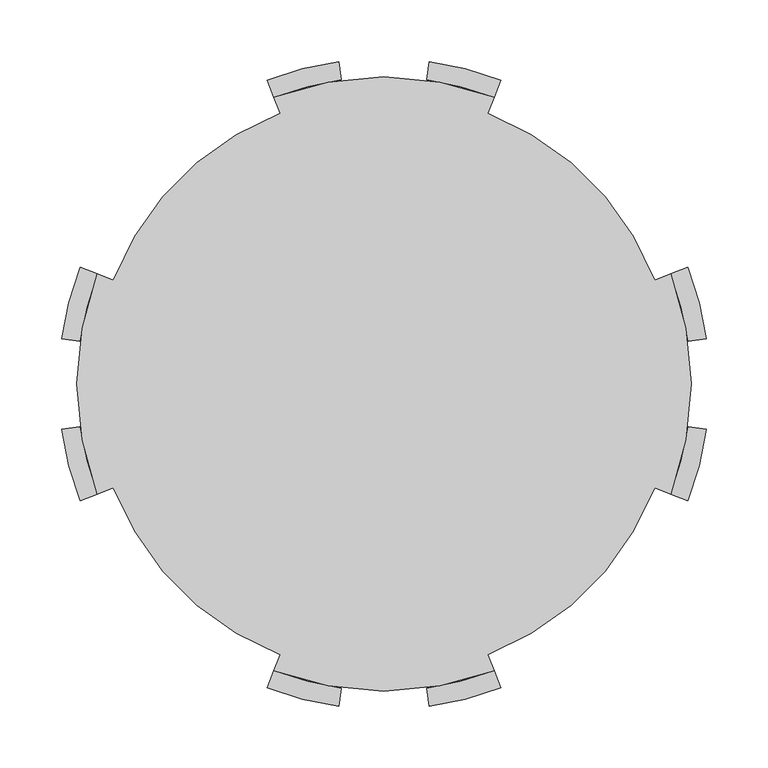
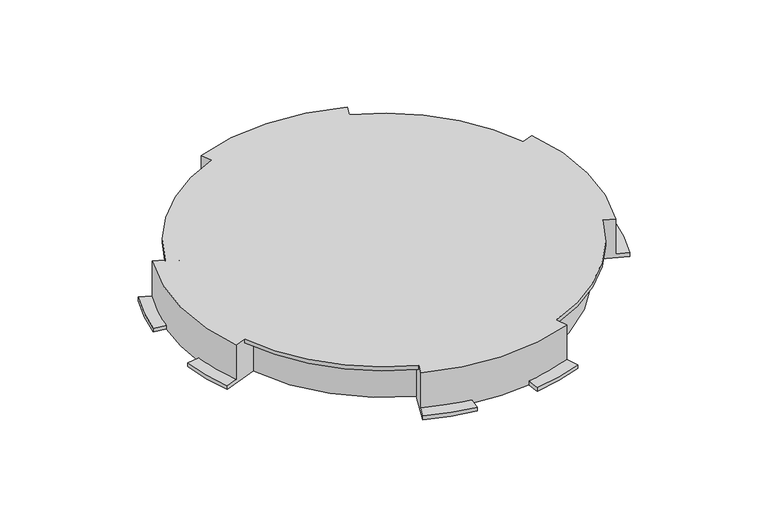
"""IFC4 building model written with IfcOpenShell, lengths in millimetres: proxy geometry, RSK C3 Base : RSK C3 Base."""

from ifc_helpers import new_model, si_unit, frame, origin, origin_with_axes, place, context, project, spatial, circle_curve, source, transform, mapped, element, save
from ifc_brep_helpers import plane_surface, cylinder_surface, advanced_brep


def generic_models_06af03c7(model_context):
    return source(origin(), model_context, "Body", "AdvancedBrep", [
        advanced_brep(
        [(-232.4615262, 89.2336194, 50.0), (-232.4615262, -89.2336194, 50.0), (-219.3914002, -84.2164681, 50.0), (-84.2164681, -219.3914002, 50.0), (-89.2336194, -232.4615262, 50.0), (89.2336194, -232.4615262, 50.0), (84.2164681, -219.3914002, 50.0), (219.3914002, -84.2164681, 50.0), (232.4615262, -89.2336194, 50.0), (232.4615262, 89.2336194, 50.0), (219.3914002, 84.2164681, 50.0), (84.2164681, 219.3914002, 50.0), (89.2336194, 232.4615262, 50.0), (-89.2336194, 232.4615262, 50.0), (-84.2164681, 219.3914002, 50.0), (-219.3914002, 84.2164681, 50.0), (-205.3876938, 78.8409489, 0.0), (-78.8409489, 205.3876938, 0.0), (-94.6091387, 246.4652326, 0.0), (-36.7416987, 261.4307701, 0.0), (-34.6541021, 246.5767491, 0.0), (34.6541021, 246.5767491, 0.0), (36.7416987, 261.4307701, 0.0), (94.6091387, 246.4652326, 0.0), (78.8409489, 205.3876938, 0.0), (205.3876938, 78.8409489, 0.0), (246.4652326, 94.6091387, 0.0), (261.4307701, 36.7416987, 0.0), (246.5767491, 34.6541021, 0.0), (246.5767491, -34.6541021, 0.0), (261.4307701, -36.7416987, 0.0), (246.4652326, -94.6091387, 0.0), (205.3876938, -78.8409489, 0.0), (78.8409489, -205.3876938, 0.0), (94.6091387, -246.4652326, 0.0), (36.7416987, -261.4307701, 0.0), (34.6541021, -246.5767491, 0.0), (-34.6541021, -246.5767491, 0.0), (-36.7416987, -261.4307701, 0.0), (-94.6091387, -246.4652326, 0.0), (-78.8409489, -205.3876938, 0.0), (-205.3876938, -78.8409489, 0.0), (-246.4652326, -94.6091387, 0.0), (-261.4307701, -36.7416987, 0.0), (-246.5767491, -34.6541021, 0.0), (-246.5767491, 34.6541021, 0.0), (-261.4307701, 36.7416987, 0.0), (-246.4652326, 94.6091387, 0.0), (-246.4652326, 94.6091387, 5.0), (-232.4615262, 89.2336194, 5.0), (-219.3914002, 84.2164681, 45.0), (-205.3876938, 78.8409489, 45.0), (-246.5767491, 34.6541021, 5.0), (-246.5767491, -34.6541021, 5.0), (-232.4615262, -89.2336194, 5.0), (-246.4652326, -94.6091387, 5.0), (-205.3876938, -78.8409489, 45.0), (-219.3914002, -84.2164681, 45.0), (-78.8409489, -205.3876938, 45.0), (-84.2164681, -219.3914002, 45.0), (-94.6091387, -246.4652326, 5.0), (-89.2336194, -232.4615262, 5.0), (-34.6541021, -246.5767491, 5.0), (34.6541021, -246.5767491, 5.0), (89.2336194, -232.4615262, 5.0), (94.6091387, -246.4652326, 5.0), (78.8409489, -205.3876938, 45.0), (84.2164681, -219.3914002, 45.0), (205.3876938, -78.8409489, 45.0), (219.3914002, -84.2164681, 45.0), (246.4652326, -94.6091387, 5.0), (232.4615262, -89.2336194, 5.0), (246.5767491, -34.6541021, 5.0), (246.5767491, 34.6541021, 5.0), (232.4615262, 89.2336194, 5.0), (246.4652326, 94.6091387, 5.0), (205.3876938, 78.8409489, 45.0), (219.3914002, 84.2164681, 45.0), (78.8409489, 205.3876938, 45.0), (94.6091387, 246.4652326, 5.0), (89.2336194, 232.4615262, 5.0), (84.2164681, 219.3914002, 45.0), (34.6541021, 246.5767491, 5.0), (-34.6541021, 246.5767491, 5.0), (-89.2336194, 232.4615262, 5.0), (-94.6091387, 246.4652326, 5.0), (-78.8409489, 205.3876938, 45.0), (-84.2164681, 219.3914002, 45.0), (-36.7416987, -261.4307701, 5.0), (36.7416987, -261.4307701, 5.0), (261.4307701, -36.7416987, 5.0), (261.4307701, 36.7416987, 5.0), (36.7416987, 261.4307701, 5.0), (-36.7416987, 261.4307701, 5.0), (-261.4307701, 36.7416987, 5.0), (-261.4307701, -36.7416987, 5.0)],
        [
            (0, 1, circle_curve(frame((0.0, 0.0, 50.0), z_axis=(0.0, 0.0, 1.0), x_axis=(1.0, 0.0, 0.0)), 249.0)),
            (1, 2),
            (2, 3, circle_curve(frame((0.0, 0.0, 50.0), z_axis=(0.0, 0.0, 1.0), x_axis=(-1.0, 0.0, 0.0)), 235.0)),
            (3, 4),
            (4, 5, circle_curve(frame((0.0, 0.0, 50.0), z_axis=(0.0, 0.0, 1.0), x_axis=(1.0, 0.0, 0.0)), 249.0)),
            (5, 6),
            (6, 7, circle_curve(frame((0.0, 0.0, 50.0), z_axis=(0.0, 0.0, 1.0), x_axis=(1.0, 0.0, 0.0)), 235.0)),
            (7, 8),
            (8, 9, circle_curve(frame((0.0, 0.0, 50.0), z_axis=(0.0, 0.0, 1.0), x_axis=(1.0, 0.0, 0.0)), 249.0)),
            (9, 10),
            (10, 11, circle_curve(frame((0.0, 0.0, 50.0), z_axis=(0.0, 0.0, 1.0), x_axis=(1.0, 0.0, 0.0)), 235.0)),
            (11, 12),
            (12, 13, circle_curve(frame((0.0, 0.0, 50.0), z_axis=(0.0, 0.0, 1.0), x_axis=(1.0, 0.0, 0.0)), 249.0)),
            (13, 14),
            (14, 15, circle_curve(frame((0.0, 0.0, 50.0), z_axis=(0.0, 0.0, 1.0), x_axis=(-1.0, 0.0, 0.0)), 235.0)),
            (15, 0),
            (16, 17, circle_curve(frame((0.0, 0.0, 0.0), z_axis=(0.0, 0.0, -1.0), x_axis=(1.0, 0.0, 0.0)), 220.0)),
            (17, 18),
            (18, 19, circle_curve(frame((0.0, 0.0, 0.0), z_axis=(0.0, 0.0, -1.0), x_axis=(1.0, 0.0, 0.0)), 264.0)),
            (19, 20),
            (20, 21, circle_curve(frame((0.0, 0.0, 0.0), z_axis=(0.0, 0.0, -1.0), x_axis=(1.0, 0.0, 0.0)), 249.0)),
            (21, 22),
            (22, 23, circle_curve(frame((0.0, 0.0, 0.0), z_axis=(0.0, 0.0, -1.0), x_axis=(-1.0, 0.0, 0.0)), 264.0)),
            (23, 24),
            (24, 25, circle_curve(frame((0.0, 0.0, 0.0), z_axis=(0.0, 0.0, -1.0), x_axis=(1.0, 0.0, 0.0)), 220.0)),
            (25, 26),
            (26, 27, circle_curve(frame((0.0, 0.0, 0.0), z_axis=(0.0, 0.0, -1.0), x_axis=(0.0, -1.0, 0.0)), 264.0)),
            (27, 28),
            (28, 29, circle_curve(frame((0.0, 0.0, 0.0), z_axis=(0.0, 0.0, -1.0), x_axis=(1.0, 0.0, 0.0)), 249.0)),
            (29, 30),
            (30, 31, circle_curve(frame((0.0, 0.0, 0.0), z_axis=(0.0, 0.0, -1.0), x_axis=(0.0, 1.0, 0.0)), 264.0)),
            (31, 32),
            (32, 33, circle_curve(frame((0.0, 0.0, 0.0), z_axis=(0.0, 0.0, -1.0), x_axis=(1.0, 0.0, 0.0)), 220.0)),
            (33, 34),
            (34, 35, circle_curve(frame((0.0, 0.0, 0.0), z_axis=(0.0, 0.0, -1.0), x_axis=(-1.0, 0.0, 0.0)), 264.0)),
            (35, 36),
            (36, 37, circle_curve(frame((0.0, 0.0, 0.0), z_axis=(0.0, 0.0, -1.0), x_axis=(1.0, 0.0, 0.0)), 249.0)),
            (37, 38),
            (38, 39, circle_curve(frame((0.0, 0.0, 0.0), z_axis=(0.0, 0.0, -1.0), x_axis=(1.0, 0.0, 0.0)), 264.0)),
            (39, 40),
            (40, 41, circle_curve(frame((0.0, 0.0, 0.0), z_axis=(0.0, 0.0, -1.0), x_axis=(1.0, 0.0, 0.0)), 220.0)),
            (41, 42),
            (42, 43, circle_curve(frame((0.0, 0.0, 0.0), z_axis=(0.0, 0.0, -1.0), x_axis=(0.0, 1.0, 0.0)), 264.0)),
            (43, 44),
            (44, 45, circle_curve(frame((0.0, 0.0, 0.0), z_axis=(0.0, 0.0, -1.0), x_axis=(1.0, 0.0, 0.0)), 249.0)),
            (45, 46),
            (46, 47, circle_curve(frame((0.0, 0.0, 0.0), z_axis=(0.0, 0.0, -1.0), x_axis=(0.0, -1.0, 0.0)), 264.0)),
            (47, 16),
            (48, 49),
            (49, 0),
            (15, 50),
            (50, 51),
            (51, 16),
            (47, 48),
            (49, 52, circle_curve(frame((0.0, 0.0, 5.0), z_axis=(0.0, 0.0, 1.0), x_axis=(1.0, 0.0, 0.0)), 249.0)),
            (52, 45),
            (44, 53),
            (53, 54, circle_curve(frame((0.0, 0.0, 5.0), z_axis=(0.0, 0.0, 1.0), x_axis=(1.0, 0.0, 0.0)), 249.0)),
            (54, 1),
            (54, 55),
            (55, 42),
            (41, 56),
            (56, 57),
            (57, 2),
            (40, 58),
            (58, 56, circle_curve(frame((0.0, 0.0, 45.0), z_axis=(0.0, 0.0, -1.0), x_axis=(1.0, 0.0, 0.0)), 220.0)),
            (3, 59),
            (59, 58),
            (39, 60),
            (60, 61),
            (61, 4),
            (61, 62, circle_curve(frame((0.0, 0.0, 5.0), z_axis=(0.0, 0.0, 1.0), x_axis=(1.0, 0.0, 0.0)), 249.0)),
            (62, 37),
            (36, 63),
            (63, 64, circle_curve(frame((0.0, 0.0, 5.0), z_axis=(0.0, 0.0, 1.0), x_axis=(1.0, 0.0, 0.0)), 249.0)),
            (64, 5),
            (64, 65),
            (65, 34),
            (33, 66),
            (66, 67),
            (67, 6),
            (32, 68),
            (68, 66, circle_curve(frame((0.0, 0.0, 45.0), z_axis=(0.0, 0.0, -1.0), x_axis=(1.0, 0.0, 0.0)), 220.0)),
            (7, 69),
            (69, 68),
            (31, 70),
            (70, 71),
            (71, 8),
            (71, 72, circle_curve(frame((0.0, 0.0, 5.0), z_axis=(0.0, 0.0, 1.0), x_axis=(1.0, 0.0, 0.0)), 249.0)),
            (72, 29),
            (28, 73),
            (73, 74, circle_curve(frame((0.0, 0.0, 5.0), z_axis=(0.0, 0.0, 1.0), x_axis=(1.0, 0.0, 0.0)), 249.0)),
            (74, 9),
            (74, 75),
            (75, 26),
            (25, 76),
            (76, 77),
            (77, 10),
            (24, 78),
            (78, 76, circle_curve(frame((0.0, 0.0, 45.0), z_axis=(0.0, 0.0, -1.0), x_axis=(1.0, 0.0, 0.0)), 220.0)),
            (79, 80),
            (80, 12),
            (11, 81),
            (81, 78),
            (23, 79),
            (80, 82, circle_curve(frame((0.0, 0.0, 5.0), z_axis=(0.0, 0.0, 1.0), x_axis=(1.0, 0.0, 0.0)), 249.0)),
            (82, 21),
            (20, 83),
            (83, 84, circle_curve(frame((0.0, 0.0, 5.0), z_axis=(0.0, 0.0, 1.0), x_axis=(1.0, 0.0, 0.0)), 249.0)),
            (84, 13),
            (84, 85),
            (85, 18),
            (17, 86),
            (86, 87),
            (87, 14),
            (51, 86, circle_curve(frame((0.0, 0.0, 45.0), z_axis=(0.0, 0.0, -1.0), x_axis=(1.0, 0.0, 0.0)), 220.0)),
            (69, 67, circle_curve(frame((0.0, 0.0, 45.0), z_axis=(0.0, 0.0, -1.0), x_axis=(1.0, 0.0, 0.0)), 235.0)),
            (59, 57, circle_curve(frame((0.0, 0.0, 45.0), z_axis=(0.0, 0.0, -1.0), x_axis=(-1.0, 0.0, 0.0)), 235.0)),
            (60, 88, circle_curve(frame((0.0, 0.0, 5.0), z_axis=(0.0, 0.0, 1.0), x_axis=(1.0, 0.0, 0.0)), 264.0)),
            (88, 62),
            (88, 38),
            (63, 89),
            (89, 65, circle_curve(frame((0.0, 0.0, 5.0), z_axis=(0.0, 0.0, 1.0), x_axis=(-1.0, 0.0, 0.0)), 264.0)),
            (35, 89),
            (70, 90, circle_curve(frame((0.0, 0.0, 5.0), z_axis=(0.0, 0.0, 1.0), x_axis=(0.0, 1.0, 0.0)), 264.0)),
            (90, 72),
            (90, 30),
            (73, 91),
            (91, 75, circle_curve(frame((0.0, 0.0, 5.0), z_axis=(0.0, 0.0, 1.0), x_axis=(0.0, -1.0, 0.0)), 264.0)),
            (27, 91),
            (79, 92, circle_curve(frame((0.0, 0.0, 5.0), z_axis=(0.0, 0.0, 1.0), x_axis=(-1.0, 0.0, 0.0)), 264.0)),
            (92, 82),
            (92, 22),
            (83, 93),
            (93, 85, circle_curve(frame((0.0, 0.0, 5.0), z_axis=(0.0, 0.0, 1.0), x_axis=(1.0, 0.0, 0.0)), 264.0)),
            (19, 93),
            (48, 94, circle_curve(frame((0.0, 0.0, 5.0), z_axis=(0.0, 0.0, 1.0), x_axis=(0.0, -1.0, 0.0)), 264.0)),
            (94, 52),
            (94, 46),
            (53, 95),
            (95, 55, circle_curve(frame((0.0, 0.0, 5.0), z_axis=(0.0, 0.0, 1.0), x_axis=(0.0, 1.0, 0.0)), 264.0)),
            (43, 95),
            (81, 77, circle_curve(frame((0.0, 0.0, 45.0), z_axis=(0.0, 0.0, -1.0), x_axis=(1.0, 0.0, 0.0)), 235.0)),
            (50, 87, circle_curve(frame((0.0, 0.0, 45.0), z_axis=(0.0, 0.0, -1.0), x_axis=(-1.0, 0.0, 0.0)), 235.0)),
        ],
        [
            plane_surface(frame((0.0, 0.0, 50.0), z_axis=(0.0, 0.0, 1.0000000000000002), x_axis=(-0.9335804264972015, 0.3583679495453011, 0.0))),
            plane_surface(frame((0.0, 0.0, 0.0), z_axis=(0.0, 0.0, -1.0000000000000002), x_axis=(0.9335804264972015, -0.3583679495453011, 0.0))),
            plane_surface(frame((-205.3876938, 78.8409489, 50.0), z_axis=(0.3583679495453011, 0.9335804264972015, 0.0), x_axis=(0.0, 0.0, -1.0))),
            cylinder_surface(origin_with_axes(), 249.0),
            plane_surface(frame((-232.4615262, -89.2336194, 50.0), z_axis=(0.35836794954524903, -0.9335804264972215, 0.0), x_axis=(0.0, 0.0, -1.0))),
            cylinder_surface(origin_with_axes(), 220.0),
            plane_surface(frame((-78.8409489, -205.3876938, 50.0), z_axis=(-0.933580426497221, 0.35836794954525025, 0.0), x_axis=(0.0, 0.0, -1.0))),
            plane_surface(frame((89.2336194, -232.4615262, 50.0), z_axis=(0.9335804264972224, 0.3583679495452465, 0.0), x_axis=(0.0, 0.0, -1.0))),
            plane_surface(frame((205.3876938, -78.8409489, 50.0), z_axis=(-0.3583679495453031, -0.9335804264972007, 0.0), x_axis=(0.0, 0.0, -1.0))),
            plane_surface(frame((232.4615262, 89.2336194, 50.0), z_axis=(-0.358367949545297, 0.9335804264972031, 0.0), x_axis=(0.0, 0.0, -1.0))),
            plane_surface(frame((78.8409489, 205.3876938, 50.0), z_axis=(0.9335804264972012, -0.3583679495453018, 0.0), x_axis=(0.0, 0.0, -1.0))),
            plane_surface(frame((-89.2336194, 232.4615262, 50.0), z_axis=(-0.9335804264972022, -0.35836794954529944, 0.0), x_axis=(0.0, 0.0, -1.0))),
            plane_surface(frame((78.8409489, -205.3876938, 45.0), z_axis=(0.0, 0.0, -1.0), x_axis=(-0.3583679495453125, 0.9335804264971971, 0.0))),
            cylinder_surface(frame((0.0, 0.0, 45.0), z_axis=(0.0, 0.0, 1.0), x_axis=(1.0, 0.0, 0.0)), 235.0),
            plane_surface(frame((-220.0, 0.0, 45.0), z_axis=(0.0, 0.0, -1.0), x_axis=(0.0, -1.0, 0.0))),
            cylinder_surface(frame((0.0, 0.0, 45.0), z_axis=(0.0, 0.0, 1.0), x_axis=(-1.0, 0.0, 0.0)), 235.0),
            plane_surface(frame((-89.2336194, -232.4615262, 5.0), z_axis=(0.0, 0.0, 1.0), x_axis=(-0.3583679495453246, -0.9335804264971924, 0.0))),
            plane_surface(frame((-36.7416987, -261.4307701, 5.0), z_axis=(0.990268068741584, -0.13917310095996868, 0.0), x_axis=(0.0, 0.0, -1.0))),
            cylinder_surface(origin_with_axes(), 264.0),
            plane_surface(frame((-249.0, 0.0, 5.0), z_axis=(0.0, 0.0, 1.0), x_axis=(0.0, 1.0, 0.0))),
            plane_surface(frame((34.6541021, -246.5767491, 5.0), z_axis=(-0.9902680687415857, -0.13917310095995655, 0.0), x_axis=(0.0, 0.0, -1.0))),
            cylinder_surface(frame((0.0, 0.0, 0.0), z_axis=(0.0, 0.0, 1.0), x_axis=(-1.0, 0.0, 0.0)), 264.0),
            plane_surface(frame((232.4615262, -89.2336194, 5.0), z_axis=(0.0, 0.0, 1.0), x_axis=(0.9335804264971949, -0.35836794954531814, 0.0))),
            plane_surface(frame((261.4307701, -36.7416987, 5.0), z_axis=(0.13917310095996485, 0.9902680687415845, 0.0), x_axis=(0.0, 0.0, -1.0))),
            cylinder_surface(frame((0.0, 0.0, 0.0), z_axis=(0.0, 0.0, 1.0), x_axis=(0.0, 1.0, 0.0)), 264.0),
            plane_surface(frame((0.0, -249.0, 5.0), z_axis=(0.0, 0.0, 1.0), x_axis=(-1.0, 0.0, 0.0))),
            plane_surface(frame((246.5767491, 34.6541021, 5.0), z_axis=(0.13917310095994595, -0.9902680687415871, 0.0), x_axis=(0.0, 0.0, -1.0))),
            cylinder_surface(frame((0.0, 0.0, 0.0), z_axis=(0.0, 0.0, 1.0), x_axis=(0.0, -1.0, 0.0)), 264.0),
            plane_surface(frame((89.2336194, 232.4615262, 5.0), z_axis=(0.0, 0.0, 1.0), x_axis=(0.3583679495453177, 0.9335804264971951, 0.0))),
            plane_surface(frame((36.7416987, 261.4307701, 5.0), z_axis=(-0.9902680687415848, 0.13917310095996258, 0.0), x_axis=(0.0, 0.0, -1.0))),
            plane_surface(frame((249.0, 0.0, 5.0), z_axis=(0.0, 0.0, 1.0), x_axis=(0.0, -1.0, 0.0))),
            plane_surface(frame((-34.6541021, 246.5767491, 5.0), z_axis=(0.9902680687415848, 0.13917310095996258, 0.0), x_axis=(0.0, 0.0, -1.0))),
            plane_surface(frame((-232.4615262, 89.2336194, 5.0), z_axis=(0.0, 0.0, 1.0000000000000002), x_axis=(-0.9335804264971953, 0.3583679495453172, 0.0))),
            plane_surface(frame((-261.4307701, 36.7416987, 5.0), z_axis=(-0.13917310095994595, -0.9902680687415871, 0.0), x_axis=(0.0, 0.0, -1.0))),
            plane_surface(frame((0.0, 249.0, 5.0), z_axis=(0.0, 0.0, 1.0), x_axis=(1.0, 0.0, 0.0))),
            plane_surface(frame((-246.5767491, -34.6541021, 5.0), z_axis=(-0.13917310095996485, 0.9902680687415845, 0.0), x_axis=(0.0, 0.0, -1.0))),
            plane_surface(frame((220.0, 0.0, 45.0), z_axis=(0.0, 0.0, -1.0), x_axis=(0.0, 1.0, 0.0))),
            plane_surface(frame((-78.8409489, 205.3876938, 45.0), z_axis=(0.0, 0.0, -1.0), x_axis=(0.3583679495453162, -0.9335804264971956, 0.0))),
        ],
        [
            (0, [[1, 2, 3, 4, 5, 6, 7, 8, 9, 10, 11, 12, 13, 14, 15, 16]]),
            (1, [[17, 18, 19, 20, 21, 22, 23, 24, 25, 26, 27, 28, 29, 30, 31, 32, 33, 34, 35, 36, 37, 38, 39, 40, 41, 42, 43, 44, 45, 46, 47, 48]]),
            (2, [[49, 50, -16, 51, 52, 53, -48, 54]]),
            (3, [[-1, -50, 55, 56, -45, 57, 58, 59]]),
            (4, [[-2, -59, 60, 61, -42, 62, 63, 64]]),
            (5, [[-41, 65, 66, -62]]),
            (6, [[-4, 67, 68, -65, -40, 69, 70, 71]]),
            (3, [[-5, -71, 72, 73, -37, 74, 75, 76]]),
            (7, [[-6, -76, 77, 78, -34, 79, 80, 81]]),
            (5, [[-33, 82, 83, -79]]),
            (8, [[-8, 84, 85, -82, -32, 86, 87, 88]]),
            (3, [[-9, -88, 89, 90, -29, 91, 92, 93]]),
            (9, [[94, 95, -26, 96, 97, 98, -10, -93]]),
            (5, [[-25, 99, 100, -96]]),
            (10, [[101, 102, -12, 103, 104, -99, -24, 105]]),
            (3, [[-13, -102, 106, 107, -21, 108, 109, 110]]),
            (11, [[111, 112, -18, 113, 114, 115, -14, -110]]),
            (5, [[-17, -53, 116, -113]]),
            (12, [[117, -80, -83, -85]]),
            (13, [[-7, -81, -117, -84]]),
            (14, [[118, -63, -66, -68]]),
            (15, [[-3, -64, -118, -67]]),
            (16, [[-70, 119, 120, -72]]),
            (17, [[-120, 121, -38, -73]]),
            (18, [[-119, -69, -39, -121]]),
            (19, [[122, 123, -77, -75]]),
            (20, [[-122, -74, -36, 124]]),
            (21, [[-123, -124, -35, -78]]),
            (22, [[-87, 125, 126, -89]]),
            (23, [[-126, 127, -30, -90]]),
            (24, [[-125, -86, -31, -127]]),
            (25, [[128, 129, -94, -92]]),
            (26, [[-128, -91, -28, 130]]),
            (27, [[-129, -130, -27, -95]]),
            (28, [[-101, 131, 132, -106]]),
            (29, [[-132, 133, -22, -107]]),
            (21, [[-131, -105, -23, -133]]),
            (30, [[134, 135, -111, -109]]),
            (31, [[-134, -108, -20, 136]]),
            (18, [[-135, -136, -19, -112]]),
            (32, [[-49, 137, 138, -55]]),
            (33, [[-138, 139, -46, -56]]),
            (27, [[-137, -54, -47, -139]]),
            (34, [[140, 141, -60, -58]]),
            (35, [[-140, -57, -44, 142]]),
            (24, [[-141, -142, -43, -61]]),
            (36, [[143, -97, -100, -104]]),
            (13, [[-11, -98, -143, -103]]),
            (37, [[144, -114, -116, -52]]),
            (15, [[-15, -115, -144, -51]]),
        ],
    ),
    ])


if __name__ == "__main__":
    model = new_model("IFC4")
    model_context = context("Model", 3, world=origin())
    ifc_project = project(units=[si_unit("LENGTHUNIT", "METRE", prefix="MILLI")], contexts=[model_context])
    site = spatial("IfcSite", under=ifc_project)
    building = spatial("IfcBuilding", under=site)
    placement = place(None, origin())
    generic_models_shape = generic_models_06af03c7(model_context)
    element("IfcBuildingElementProxy", 1, Name="RSK C3 Base : RSK C3 Base", ObjectType="RSK C3 Base : RSK C3 Base", at=placement, inside=building, context=model_context, shape_type="MappedRepresentation", body=[
        mapped(generic_models_shape, transform((0.0, 0.0, 0.0), x_axis=(1.0, 0.0, 0.0), y_axis=(0.0, 1.0, 0.0), z_axis=(0.0, 0.0, 1.0))),
    ])
    save(model, "model.ifc")
